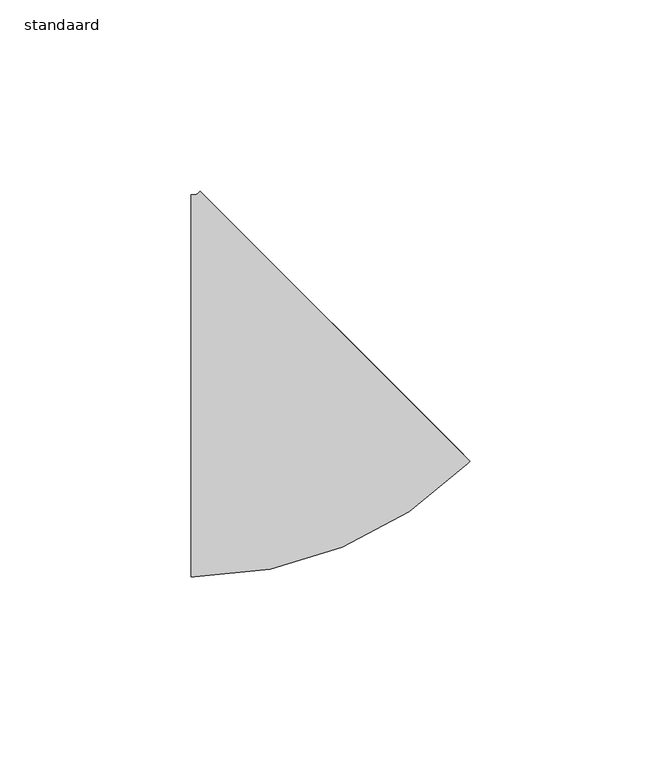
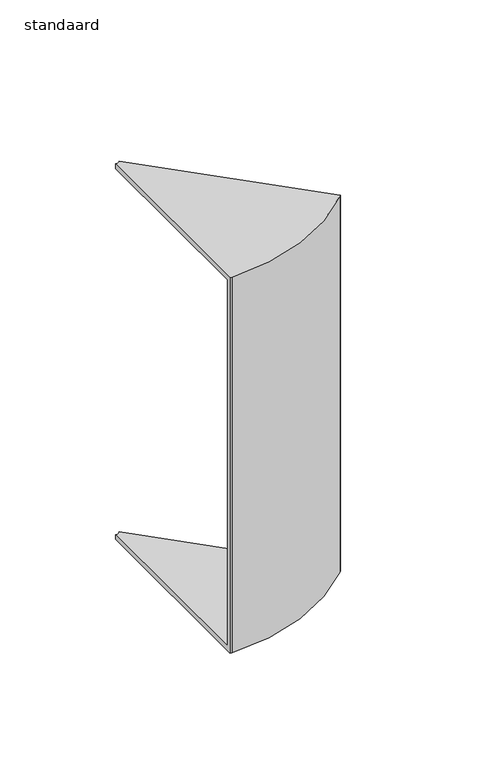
"""IFC4 building model written with IfcOpenShell, lengths in millimetres: cable carrier fitting geometry, AI_Raccord cdc_Coude montant : standaard."""

from ifc_helpers import new_model, si_unit, frame, origin, place, context, project, spatial, polyline, circle_curve, source, transform, mapped, element, save
from ifc_brep_helpers import plane_surface, cylinder_surface, revolved_surface, advanced_brep


def standaard_97f41160(model_context):
    return source(origin(), model_context, "Body", "AdvancedBrep", [
        advanced_brep(
        [(-22.1248917, 50.0, 100.0), (-22.1248917, 50.0, 97.46), (-22.1248917, -47.46, 97.46), (-22.1248917, -47.46, -97.46), (-22.1248917, 50.0, -97.46), (-22.1248917, 50.0, -100.0), (-22.1248917, -50.0, -100.0), (-22.1248917, -50.0, 100.0), (-19.7106781, 51.0, 100.0), (51.0, -19.7106781, 100.0), (51.0, -19.7106781, -100.0), (-19.7106781, 51.0, -100.0), (-19.7106781, 51.0, -97.46), (49.2039488, -17.9146269, -97.46), (49.2039488, -17.9146269, 97.46), (-19.7106781, 51.0, 97.46), (-21.1248917, -50.0, 100.0), (50.2928932, -20.4177849, 100.0), (-20.4177849, 50.2928932, 100.0), (-21.1248917, 50.0, 100.0), (-21.1248917, -50.0, -100.0), (-21.1248917, 50.0, -100.0), (-20.4177849, 50.2928932, -100.0), (50.2928932, -20.4177849, -100.0), (-21.1248917, 50.0, -97.46), (-21.1248917, -47.46, -97.46), (48.496842, -18.6217337, -97.46), (-20.4177849, 50.2928932, -97.46), (-21.1248917, -47.46, 97.46), (-21.1248917, 50.0, 97.46), (-20.4177849, 50.2928932, 97.46), (48.496842, -18.6217337, 97.46)],
        [
            (0, 1),
            (1, 2),
            (2, 3),
            (3, 4),
            (4, 5),
            (5, 6),
            (6, 7),
            (7, 0),
            (8, 9),
            (9, 10),
            (10, 11),
            (11, 12),
            (12, 13),
            (13, 14),
            (14, 15),
            (15, 8),
            (7, 16),
            (16, 17, circle_curve(frame((-21.1248917, 51.0, 100.0), z_axis=(0.0, 0.0, 1.0), x_axis=(0.0, -1.0, 0.0)), 101.0)),
            (17, 9),
            (8, 18),
            (18, 19, circle_curve(frame((-21.1248917, 51.0, 100.0), z_axis=(0.0, 0.0, -1.0), x_axis=(0.0, -1.0, 0.0)), 1.0)),
            (19, 0),
            (6, 20),
            (20, 16),
            (5, 21),
            (21, 22, circle_curve(frame((-21.1248917, 51.0, -100.0), z_axis=(0.0, 0.0, 1.0), x_axis=(0.0, -1.0, 0.0)), 1.0)),
            (22, 11),
            (10, 23),
            (23, 20, circle_curve(frame((-21.1248917, 51.0, -100.0), z_axis=(0.0, 0.0, -1.0), x_axis=(0.0, -1.0, 0.0)), 101.0)),
            (4, 24),
            (24, 21),
            (3, 25),
            (25, 26, circle_curve(frame((-21.1248917, 51.0, -97.46), z_axis=(0.0, 0.0, 1.0), x_axis=(0.0, -1.0, 0.0)), 98.46)),
            (26, 13),
            (12, 27),
            (27, 24, circle_curve(frame((-21.1248917, 51.0, -97.46), z_axis=(0.0, 0.0, -1.0), x_axis=(0.0, -1.0, 0.0)), 1.0)),
            (2, 28),
            (28, 25),
            (1, 29),
            (29, 30, circle_curve(frame((-21.1248917, 51.0, 97.46), z_axis=(0.0, 0.0, 1.0), x_axis=(0.0, -1.0, 0.0)), 1.0)),
            (30, 15),
            (14, 31),
            (31, 28, circle_curve(frame((-21.1248917, 51.0, 97.46), z_axis=(0.0, 0.0, -1.0), x_axis=(0.0, -1.0, 0.0)), 98.46)),
            (19, 29),
            (23, 17),
            (27, 22),
            (31, 26),
            (18, 30),
        ],
        [
            plane_surface(frame((-22.1248917, 0.0, 0.0), z_axis=(-1.0, -4.915201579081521e-12, 0.0), x_axis=(0.0, 0.0, 1.0))),
            plane_surface(frame((15.6446609, 15.6446609, 0.0), z_axis=(0.7071067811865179, 0.7071067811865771, 0.0), x_axis=(0.0, 0.0, 1.0))),
            plane_surface(frame((-22.1248917, -50.0, 100.0), z_axis=(0.0, 0.0, 1.0), x_axis=(1.0, 4.923661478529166e-12, 0.0))),
            plane_surface(frame((-22.1248917, -50.0, -100.0), z_axis=(4.906741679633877e-12, -1.0, 0.0), x_axis=(1.0, 4.906741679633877e-12, 0.0))),
            plane_surface(frame((-22.1248917, 50.0, -100.0), z_axis=(0.0, 0.0, -1.0), x_axis=(1.0, 4.9152015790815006e-12, 0.0))),
            plane_surface(frame((-22.1248917, 50.0, -97.46), z_axis=(-4.9152015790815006e-12, 1.0, 0.0), x_axis=(1.0, 4.9152015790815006e-12, 0.0))),
            plane_surface(frame((-22.1248917, -47.46, -97.46), z_axis=(0.0, 0.0, 1.0), x_axis=(1.0, 4.906741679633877e-12, 0.0))),
            plane_surface(frame((-22.1248917, -47.46, 97.46), z_axis=(-4.906741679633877e-12, 1.0, 0.0), x_axis=(1.0, 4.906741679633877e-12, 0.0))),
            plane_surface(frame((-22.1248917, 50.0, 97.46), z_axis=(0.0, 0.0, -1.0), x_axis=(1.0, 4.9152015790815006e-12, 0.0))),
            plane_surface(frame((-22.1248917, 50.0, 100.0), z_axis=(-4.9152015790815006e-12, 1.0, 0.0), x_axis=(1.0, 4.9152015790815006e-12, 0.0))),
            cylinder_surface(frame((-21.1248917, 51.0, 0.0), z_axis=(0.0, 0.0, 1.0), x_axis=(0.0, -1.0, 0.0)), 101.0),
            revolved_surface(polyline([(-21.1248917, 50.0, -97.46), (-21.1248917, 50.0, -100.0)]), (-21.1248917, 51.0, 0.0), (0.0, 0.0, 1.0)),
            revolved_surface(polyline([(-21.1248917, -47.459999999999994, 97.46), (-21.1248917, -47.459999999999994, -97.46)]), (-21.1248917, 51.0, 0.0), (0.0, 0.0, 1.0)),
            revolved_surface(polyline([(-21.1248917, 50.0, 100.0), (-21.1248917, 50.0, 97.46)]), (-21.1248917, 51.0, 0.0), (0.0, 0.0, 1.0)),
            plane_surface(frame((50.2928932, -20.4177849, -100.0), z_axis=(0.7071067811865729, -0.7071067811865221, 0.0), x_axis=(0.7071067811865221, 0.7071067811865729, 0.0))),
            plane_surface(frame((-20.4177849, 50.2928932, -97.46), z_axis=(-0.7071067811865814, 0.7071067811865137, 0.0), x_axis=(0.7071067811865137, 0.7071067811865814, 0.0))),
            plane_surface(frame((48.496842, -18.6217337, 97.46), z_axis=(-0.7071067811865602, 0.7071067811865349, 0.0), x_axis=(0.7071067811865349, 0.7071067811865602, 0.0))),
            plane_surface(frame((-20.4177849, 50.2928932, 100.0), z_axis=(-0.7071067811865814, 0.7071067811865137, 0.0), x_axis=(0.7071067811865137, 0.7071067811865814, 0.0))),
        ],
        [
            (0, [[1, 2, 3, 4, 5, 6, 7, 8]]),
            (1, [[9, 10, 11, 12, 13, 14, 15, 16]]),
            (2, [[-8, 17, 18, 19, -9, 20, 21, 22]]),
            (3, [[-7, 23, 24, -17]]),
            (4, [[-6, 25, 26, 27, -11, 28, 29, -23]]),
            (5, [[-5, 30, 31, -25]]),
            (6, [[-4, 32, 33, 34, -13, 35, 36, -30]]),
            (7, [[-3, 37, 38, -32]]),
            (8, [[-2, 39, 40, 41, -15, 42, 43, -37]]),
            (9, [[-1, -22, 44, -39]]),
            (10, [[-18, -24, -29, 45]]),
            (11, [[-26, -31, -36, 46]]),
            (12, [[-33, -38, -43, 47]]),
            (13, [[-40, -44, -21, 48]]),
            (14, [[-45, -28, -10, -19]]),
            (15, [[-46, -35, -12, -27]]),
            (16, [[-47, -42, -14, -34]]),
            (17, [[-48, -20, -16, -41]]),
        ],
    ),
    ])


if __name__ == "__main__":
    model = new_model("IFC4")
    model_context = context("Model", 3, world=origin())
    ifc_project = project(units=[si_unit("LENGTHUNIT", "METRE", prefix="MILLI")], contexts=[model_context])
    site = spatial("IfcSite", under=ifc_project)
    building = spatial("IfcBuilding", under=site)
    placement = place(None, origin())
    standaard_shape = standaard_97f41160(model_context)
    element("IfcCableCarrierFitting", 1, ObjectType="AI_Raccord cdc_Coude montant : standaard", at=placement, inside=building, context=model_context, shape_type="MappedRepresentation", body=[
        mapped(standaard_shape, transform((0.0, 0.0, 0.0), x_axis=(1.0, 0.0, 0.0), y_axis=(0.0, 1.0, 0.0), z_axis=(0.0, 0.0, 1.0))),
    ])
    save(model, "model.ifc")
